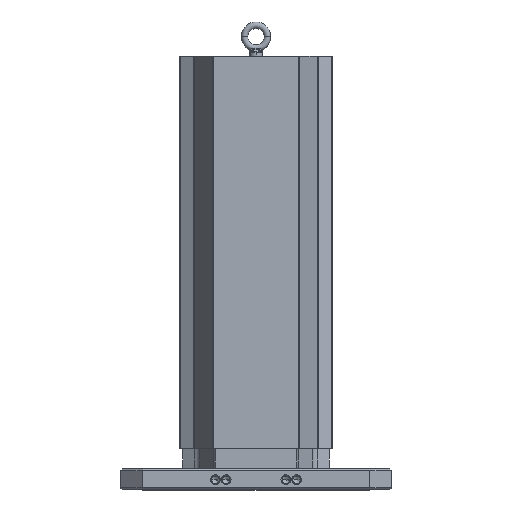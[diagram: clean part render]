
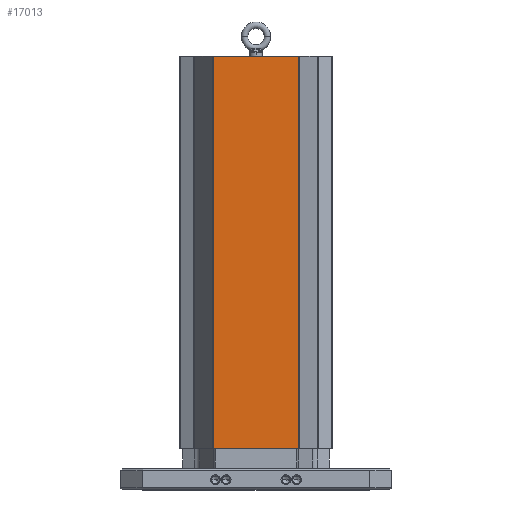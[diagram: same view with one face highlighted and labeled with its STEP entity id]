
A CAD part, top view. The second image highlights one B-rep face of the part: STEP entity #17013.
In plain terms, the highlighted planar face has unit normal (0, 0, 1) as drawn and (0, 0, -1) by its records, which use the part's own axes.
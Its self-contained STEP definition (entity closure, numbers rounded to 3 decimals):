
#148 = EDGE_LOOP ( 'NONE', ( #13962, #14184, #1430, #32575 ) ) ;
#191 = EDGE_CURVE ( 'NONE', #33728, #8402, #16248, .T. ) ;
#1430 = ORIENTED_EDGE ( 'NONE', *, *, #15376, .F. ) ;
#1454 = CARTESIAN_POINT ( 'NONE',  ( 78.486, 38.1, -116.992 ) ) ;
#2678 = AXIS2_PLACEMENT_3D ( 'NONE', #4950, #15506, #26069 ) ;
#3095 = CARTESIAN_POINT ( 'NONE',  ( -79.756, 762., -116.992 ) ) ;
#3237 = VECTOR ( 'NONE', #18676, 1000. ) ;
#3733 = CARTESIAN_POINT ( 'NONE',  ( -78.486, 38.1, -116.992 ) ) ;
#3860 = VECTOR ( 'NONE', #21421, 1000. ) ;
#4513 = DIRECTION ( 'NONE',  ( 1., 0., 0. ) ) ;
#4950 = CARTESIAN_POINT ( 'NONE',  ( -79.756, 953.126, -116.992 ) ) ;
#6908 = LINE ( 'NONE', #28181, #12625 ) ;
#7334 = PLANE ( 'NONE',  #2678 ) ;
#7676 = EDGE_CURVE ( 'NONE', #8402, #25657, #10898, .T. ) ;
#8402 = VERTEX_POINT ( 'NONE', #33466 ) ;
#10781 = LINE ( 'NONE', #23747, #33251 ) ;
#10898 = LINE ( 'NONE', #3095, #3860 ) ;
#12625 = VECTOR ( 'NONE', #4513, 1000. ) ;
#13962 = ORIENTED_EDGE ( 'NONE', *, *, #7676, .T. ) ;
#14027 = CARTESIAN_POINT ( 'NONE',  ( 78.486, 762., -116.992 ) ) ;
#14184 = ORIENTED_EDGE ( 'NONE', *, *, #20965, .T. ) ;
#15376 = EDGE_CURVE ( 'NONE', #33728, #30038, #6908, .T. ) ;
#15506 = DIRECTION ( 'NONE',  ( 0., 0., -1. ) ) ;
#16248 = LINE ( 'NONE', #26806, #3237 ) ;
#17013 = ADVANCED_FACE ( 'NONE', ( #17901 ), #7334, .T. ) ;
#17901 = FACE_OUTER_BOUND ( 'NONE', #148, .T. ) ;
#18676 = DIRECTION ( 'NONE',  ( 0., 1., 0. ) ) ;
#20965 = EDGE_CURVE ( 'NONE', #25657, #30038, #10781, .T. ) ;
#21123 = DIRECTION ( 'NONE',  ( 0., -1., 0. ) ) ;
#21421 = DIRECTION ( 'NONE',  ( 1., 0., 0. ) ) ;
#23747 = CARTESIAN_POINT ( 'NONE',  ( 78.486, 953.126, -116.992 ) ) ;
#25657 = VERTEX_POINT ( 'NONE', #14027 ) ;
#26069 = DIRECTION ( 'NONE',  ( -1., 0., 0. ) ) ;
#26806 = CARTESIAN_POINT ( 'NONE',  ( -78.486, 953.126, -116.992 ) ) ;
#28181 = CARTESIAN_POINT ( 'NONE',  ( -79.756, 38.1, -116.992 ) ) ;
#30038 = VERTEX_POINT ( 'NONE', #1454 ) ;
#32575 = ORIENTED_EDGE ( 'NONE', *, *, #191, .T. ) ;
#33251 = VECTOR ( 'NONE', #21123, 1000. ) ;
#33466 = CARTESIAN_POINT ( 'NONE',  ( -78.486, 762., -116.992 ) ) ;
#33728 = VERTEX_POINT ( 'NONE', #3733 ) ;
